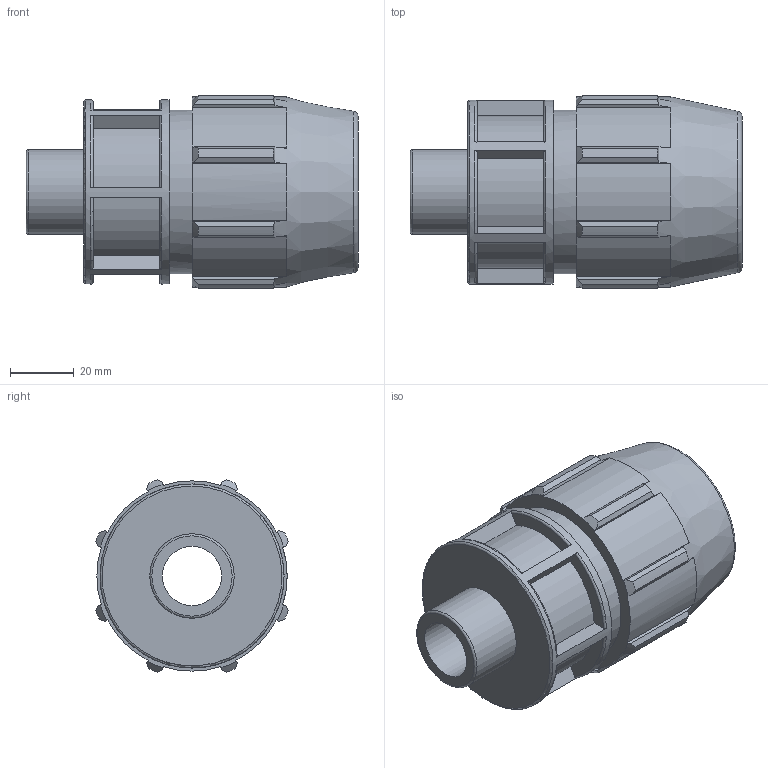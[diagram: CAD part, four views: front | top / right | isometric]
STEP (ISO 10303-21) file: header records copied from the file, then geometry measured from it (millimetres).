
FILE_DESCRIPTION(/* description */ ('PLASSON MALE ADAPTOR 1'''' - 3/4''''M'),/* implementation_level */ '2;1');
FILE_NAME(/* name */ 'C:\Dropbox\KIMPROJECTS-Inventor 2019\99-16-3568-Processing Inch\ASTM Compression 2021\0702M0\0702M0010007.ipt.stp',/* time_stamp */ '2021-08-26T12:30:07+03:00',/* author */ ('KIM'),/* organization */ (''),/* preprocessor_version */ 'ST-DEVELOPER v17.2',/* originating_system */ 'Autodesk Inventor 2019',/* authorisation */ '');
FILE_SCHEMA (('AUTOMOTIVE_DESIGN { 1 0 10303 214 3 1 1 }'));
Length unit declared in the file: inch
Products named in the file (1): 0702M0010007
Bounding box: 103.89 x 60.23 x 60.23 mm (x, y, z)
Volume: 136779.4 mm3; surface area: 35114.9 mm2
Topology: 1 solids, 1 shells, 124 faces, 348 edges, 237 vertices
Faces by surface type: plane 63, cylinder 27, cone 19, torus 15
Full cylindrical faces by diameter (mm): 18.509 x1, 26.441 x1, 33.3 x1, 51.206 x1, 57.607 x1
Entity records: 4379 total; most frequent: CARTESIAN_POINT 990, ORIENTED_EDGE 696, DIRECTION 666, EDGE_CURVE 348, AXIS2_PLACEMENT_3D 249, VERTEX_POINT 237, LINE 168, VECTOR 168
